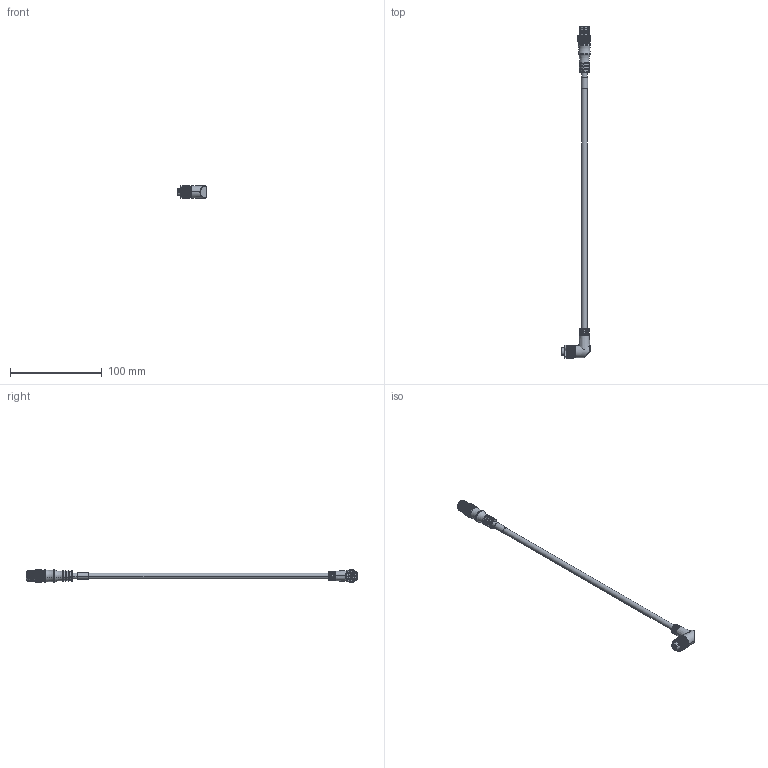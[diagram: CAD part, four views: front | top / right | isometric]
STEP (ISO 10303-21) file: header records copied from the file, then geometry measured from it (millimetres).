
FILE_DESCRIPTION((''),'2;1');
FILE_NAME('889D-R5ACDM-2','2013-10-19T',('20019289'),('Rockwell Automation'),'PRO/ENGINEER BY PARAMETRIC TECHNOLOGY CORPORATION, 2010140','PRO/ENGINEER BY PARAMETRIC TECHNOLOGY CORPORATION, 2010140','');
FILE_SCHEMA(('CONFIG_CONTROL_DESIGN'));
Length unit declared in the file: inch
Products named in the file (1): 889D-R5ACDM-2
Bounding box: 32.53 x 362.35 x 14.01 mm (x, y, z)
Volume: 18228.3 mm3; surface area: 12139.1 mm2
Topology: 1 solids, 1 shells, 993 faces, 2397 edges, 1439 vertices
Faces by surface type: plane 455, cylinder 381, cone 114, torus 39, bspline 2, sphere 2
Entity records: 29937 total; most frequent: CARTESIAN_POINT 6512, DIRECTION 5145, ORIENTED_EDGE 4794, EDGE_CURVE 2397, AXIS2_PLACEMENT_3D 1976, VERTEX_POINT 1439, VECTOR 1193, LINE 1193
